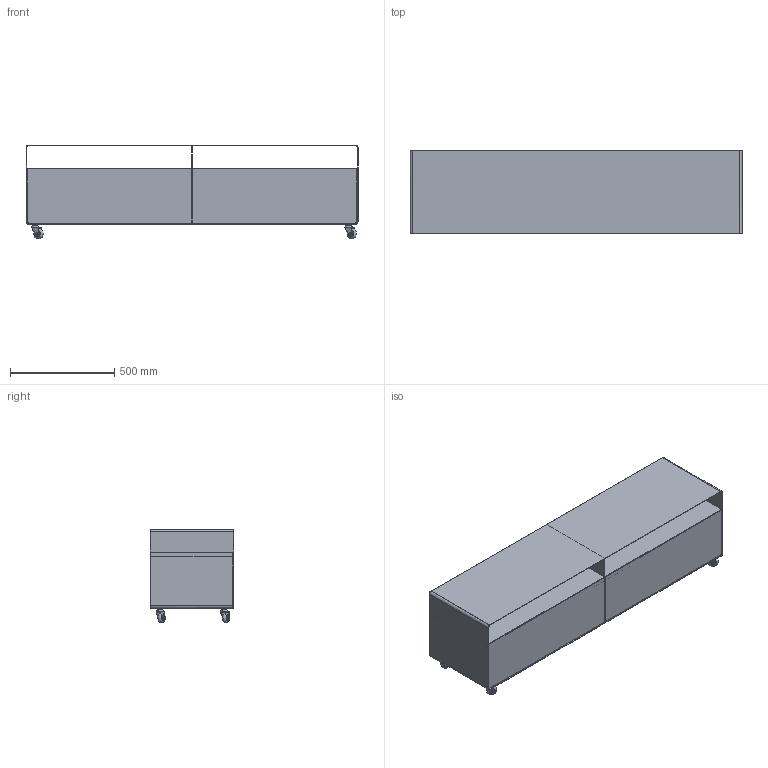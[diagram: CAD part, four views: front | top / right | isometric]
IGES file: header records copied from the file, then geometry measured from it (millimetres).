
Start section: Comment
Global section: file name: R110-N.igs; native system:  By UGS Corp.; preprocessor: XPlus GENERIC/IGES 3.0; author: Author; organization: Title; date: 20201002.123104; units: inch
Bounding box: 1595 x 400 x 449.99 mm (x, y, z)
Surface area: 6428482.1 mm2 (no closed solid volume)
Topology: 0 solids, 0 shells, 512 faces, 2684 edges, 2684 vertices
Faces by surface type: bspline 512
